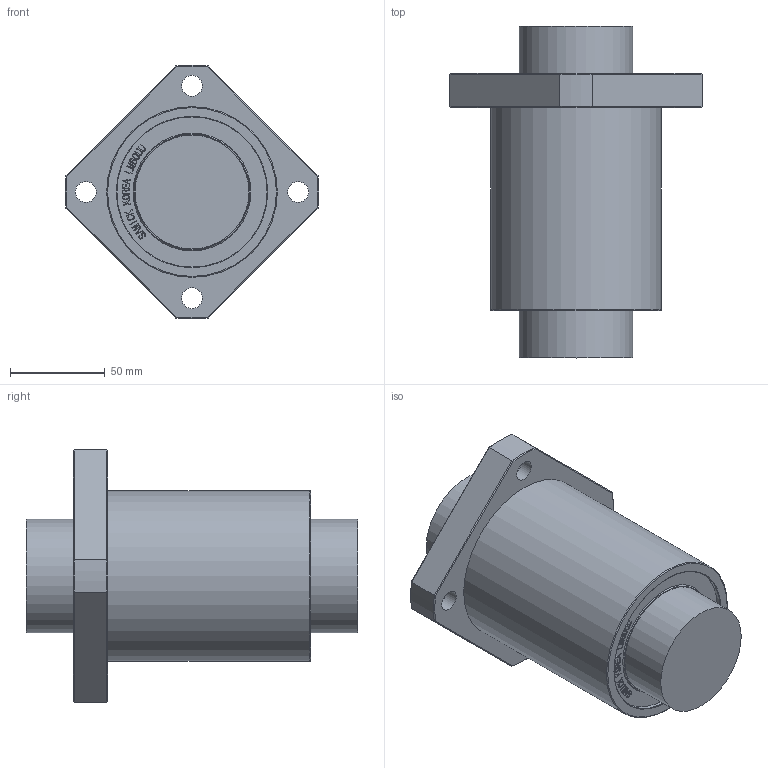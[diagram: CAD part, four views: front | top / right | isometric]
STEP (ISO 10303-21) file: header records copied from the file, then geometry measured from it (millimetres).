
FILE_DESCRIPTION(/* description */ (''),/* implementation_level */ '2;1');
FILE_NAME(/* name */ 'W:\(01) 2024년 홈페이지 CAD파일 최신화\LMEK\IPT\LMEK60UU.stp',/* time_stamp */ '2025-01-25T10:46:15+09:00',/* author */ ('서우현'),/* organization */ (''),/* preprocessor_version */ 'ST-DEVELOPER v17.2',/* originating_system */ 'Autodesk Inventor 2019',/* authorisation */ '');
FILE_SCHEMA (('AUTOMOTIVE_DESIGN { 1 0 10303 214 3 1 1 }'));
Length unit declared in the file: millimetre
Products named in the file (1): LM5
Bounding box: 133.88 x 175 x 133.88 mm (x, y, z)
Volume: 996794.7 mm3; surface area: 73163.1 mm2
Topology: 1 solids, 1 shells, 866 faces, 2426 edges, 1620 vertices
Faces by surface type: bspline 600, plane 234, cylinder 18, cone 12, torus 2
Full cylindrical faces by diameter (mm): 11 x4, 17.5 x4, 60 x2, 79.2 x2, 90 x2
Entity records: 29696 total; most frequent: CARTESIAN_POINT 11037, ORIENTED_EDGE 4852, EDGE_CURVE 2426, DIRECTION 1826, VERTEX_POINT 1620, B_SPLINE_CURVE_WITH_KNOTS 1200, LINE 1128, VECTOR 1128
